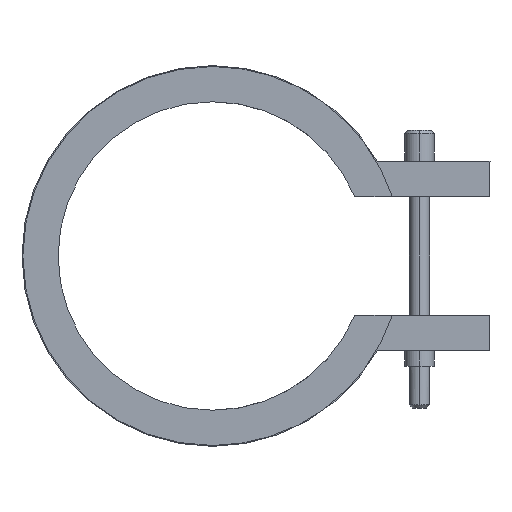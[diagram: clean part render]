
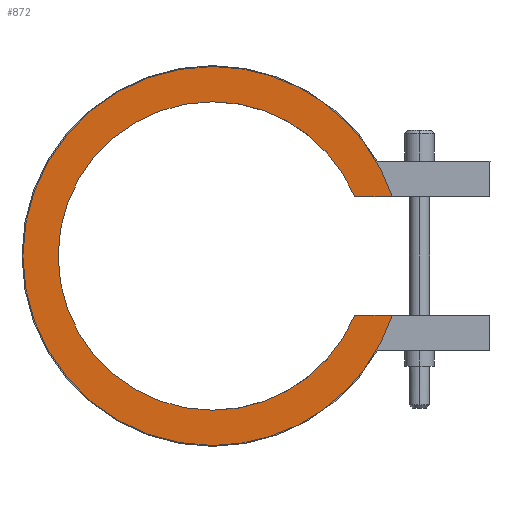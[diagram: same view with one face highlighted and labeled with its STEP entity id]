
A CAD part, left-side view. The second image highlights one B-rep face of the part: STEP entity #872.
In plain terms, the highlighted planar face has unit normal (-1, 0, 0).
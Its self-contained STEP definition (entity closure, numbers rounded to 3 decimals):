
#410=CARTESIAN_POINT('Vertex',(-22.5,-16.146,-6.75)) ;
#413=CARTESIAN_POINT('Line Origine',(-22.5,-18.279,-6.75)) ;
#417=CARTESIAN_POINT('Vertex',(-22.5,-20.413,-6.75)) ;
#463=CARTESIAN_POINT('Vertex',(-22.5,0.,-21.5)) ;
#466=CARTESIAN_POINT('Axis2P3D Location',(-22.5,0.,0.)) ;
#487=CARTESIAN_POINT('Vertex',(-22.5,0.,21.5)) ;
#490=CARTESIAN_POINT('Axis2P3D Location',(-22.5,0.,0.)) ;
#502=CARTESIAN_POINT('Axis2P3D Location',(-22.5,0.,0.)) ;
#506=CARTESIAN_POINT('Vertex',(-22.5,-20.413,6.75)) ;
#526=CARTESIAN_POINT('Line Origine',(-22.5,-18.279,6.75)) ;
#530=CARTESIAN_POINT('Vertex',(-22.5,-16.146,6.75)) ;
#818=CARTESIAN_POINT('Axis2P3D Location',(-22.5,0.,0.)) ;
#822=CARTESIAN_POINT('Vertex',(-22.5,0.,-17.5)) ;
#845=CARTESIAN_POINT('Axis2P3D Location',(-22.5,0.,0.)) ;
#850=CARTESIAN_POINT('Axis2P3D Location',(-22.5,0.,0.)) ;
#854=CARTESIAN_POINT('Vertex',(-22.5,0.,17.5)) ;
#857=CARTESIAN_POINT('Axis2P3D Location',(-22.5,0.,0.)) ;
#414=DIRECTION('Vector Direction',(0.,1.,0.)) ;
#467=DIRECTION('Axis2P3D Direction',(1.,0.,-0.)) ;
#491=DIRECTION('Axis2P3D Direction',(1.,0.,-0.)) ;
#503=DIRECTION('Axis2P3D Direction',(1.,0.,-0.)) ;
#527=DIRECTION('Vector Direction',(0.,-1.,0.)) ;
#819=DIRECTION('Axis2P3D Direction',(1.,0.,-0.)) ;
#846=DIRECTION('Axis2P3D Direction',(1.,0.,0.)) ;
#847=DIRECTION('Axis2P3D XDirection',(0.,0.,-1.)) ;
#851=DIRECTION('Axis2P3D Direction',(1.,0.,0.)) ;
#858=DIRECTION('Axis2P3D Direction',(1.,0.,0.)) ;
#468=AXIS2_PLACEMENT_3D('Circle Axis2P3D',#466,#467,$) ;
#492=AXIS2_PLACEMENT_3D('Circle Axis2P3D',#490,#491,$) ;
#504=AXIS2_PLACEMENT_3D('Circle Axis2P3D',#502,#503,$) ;
#820=AXIS2_PLACEMENT_3D('Circle Axis2P3D',#818,#819,$) ;
#848=AXIS2_PLACEMENT_3D('Plane Axis2P3D',#845,#846,#847) ;
#852=AXIS2_PLACEMENT_3D('Circle Axis2P3D',#850,#851,$) ;
#859=AXIS2_PLACEMENT_3D('Circle Axis2P3D',#857,#858,$) ;
#863=ORIENTED_EDGE('',*,*,#419,.T.) ;
#864=ORIENTED_EDGE('',*,*,#824,.T.) ;
#865=ORIENTED_EDGE('',*,*,#856,.T.) ;
#866=ORIENTED_EDGE('',*,*,#861,.T.) ;
#867=ORIENTED_EDGE('',*,*,#532,.T.) ;
#868=ORIENTED_EDGE('',*,*,#508,.F.) ;
#869=ORIENTED_EDGE('',*,*,#494,.F.) ;
#870=ORIENTED_EDGE('',*,*,#470,.F.) ;
#415=VECTOR('Line Direction',#414,1.) ;
#528=VECTOR('Line Direction',#527,1.) ;
#872=ADVANCED_FACE('14035045',(#871),#849,.F.) ;
#469=CIRCLE('generated circle',#468,21.5) ;
#493=CIRCLE('generated circle',#492,21.5) ;
#505=CIRCLE('generated circle',#504,21.5) ;
#821=CIRCLE('generated circle',#820,17.5) ;
#853=CIRCLE('generated circle',#852,17.5) ;
#860=CIRCLE('generated circle',#859,17.5) ;
#419=EDGE_CURVE('',#418,#411,#416,.T.) ;
#470=EDGE_CURVE('',#418,#464,#469,.T.) ;
#494=EDGE_CURVE('',#464,#488,#493,.T.) ;
#508=EDGE_CURVE('',#488,#507,#505,.T.) ;
#532=EDGE_CURVE('',#531,#507,#529,.T.) ;
#824=EDGE_CURVE('',#411,#823,#821,.T.) ;
#856=EDGE_CURVE('',#823,#855,#853,.T.) ;
#861=EDGE_CURVE('',#855,#531,#860,.T.) ;
#862=EDGE_LOOP('',(#863,#864,#865,#866,#867,#868,#869,#870)) ;
#871=FACE_OUTER_BOUND('',#862,.T.) ;
#416=LINE('Line',#413,#415) ;
#529=LINE('Line',#526,#528) ;
#849=PLANE('Plane',#848) ;
#411=VERTEX_POINT('',#410) ;
#418=VERTEX_POINT('',#417) ;
#464=VERTEX_POINT('',#463) ;
#488=VERTEX_POINT('',#487) ;
#507=VERTEX_POINT('',#506) ;
#531=VERTEX_POINT('',#530) ;
#823=VERTEX_POINT('',#822) ;
#855=VERTEX_POINT('',#854) ;
